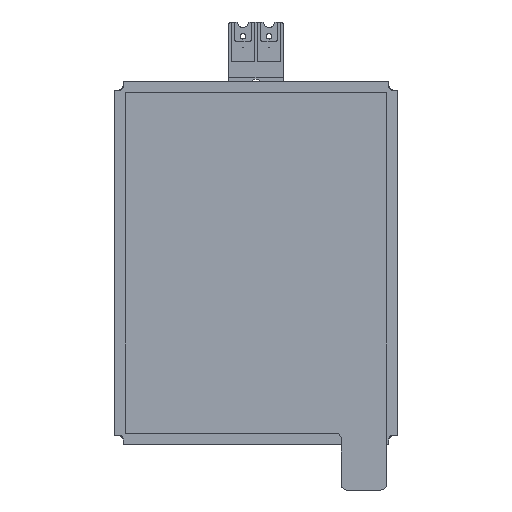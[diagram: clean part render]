
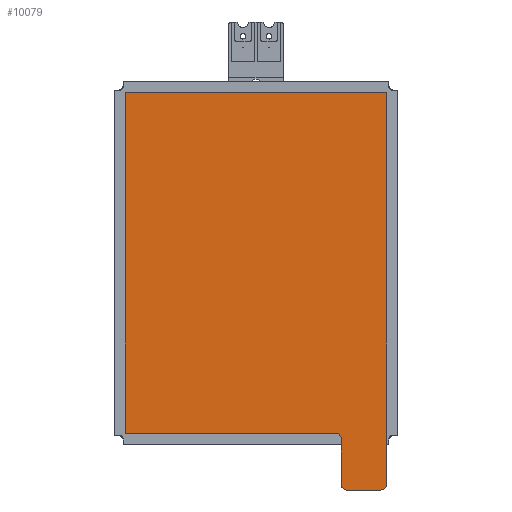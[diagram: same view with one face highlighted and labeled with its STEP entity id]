
A CAD part, front view. The second image highlights one B-rep face of the part: STEP entity #10079.
In plain terms, the highlighted planar face has unit normal (0, -1, 0).
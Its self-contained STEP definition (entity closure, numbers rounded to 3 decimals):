
#292 = DIRECTION ( 'NONE',  ( 0., -1., 0. ) ) ;
#488 = ORIENTED_EDGE ( 'NONE', *, *, #4452, .T. ) ;
#607 = ORIENTED_EDGE ( 'NONE', *, *, #8883, .T. ) ;
#631 = ORIENTED_EDGE ( 'NONE', *, *, #12655, .T. ) ;
#1194 = PLANE ( 'NONE',  #10865 ) ;
#1260 = DIRECTION ( 'NONE',  ( -1., 0., 0. ) ) ;
#1407 = DIRECTION ( 'NONE',  ( 0., -1., 0. ) ) ;
#1474 = VERTEX_POINT ( 'NONE', #2927 ) ;
#1532 = DIRECTION ( 'NONE',  ( 0., 0., -1. ) ) ;
#1612 = AXIS2_PLACEMENT_3D ( 'NONE', #5833, #1407, #5622 ) ;
#1645 = AXIS2_PLACEMENT_3D ( 'NONE', #5647, #5787, #10969 ) ;
#1732 = EDGE_CURVE ( 'NONE', #6357, #9972, #11535, .T. ) ;
#2032 = EDGE_LOOP ( 'NONE', ( #9810, #7199, #9848, #13360, #631, #9418, #4850, #607, #488 ) ) ;
#2034 = EDGE_CURVE ( 'NONE', #1474, #6465, #11619, .T. ) ;
#2406 = CARTESIAN_POINT ( 'NONE',  ( 11.5, -0.075, -20. ) ) ;
#2495 = CARTESIAN_POINT ( 'NONE',  ( -11.5, -0.075, -15. ) ) ;
#2912 = CARTESIAN_POINT ( 'NONE',  ( 11.5, -0.075, -15. ) ) ;
#2927 = CARTESIAN_POINT ( 'NONE',  ( 11.5, -0.075, 15. ) ) ;
#3017 = CIRCLE ( 'NONE', #1645, 0.5 ) ;
#3397 = CARTESIAN_POINT ( 'NONE',  ( 11.5, -0.075, 15. ) ) ;
#3431 = VERTEX_POINT ( 'NONE', #2495 ) ;
#3775 = EDGE_CURVE ( 'NONE', #6465, #3431, #9669, .T. ) ;
#4188 = VECTOR ( 'NONE', #12576, 1000. ) ;
#4452 = EDGE_CURVE ( 'NONE', #9216, #7453, #6196, .T. ) ;
#4618 = LINE ( 'NONE', #2406, #4699 ) ;
#4699 = VECTOR ( 'NONE', #6619, 1000. ) ;
#4850 = ORIENTED_EDGE ( 'NONE', *, *, #3775, .T. ) ;
#5255 = CARTESIAN_POINT ( 'NONE',  ( -11.5, -0.075, -15. ) ) ;
#5622 = DIRECTION ( 'NONE',  ( 0., 0., -1. ) ) ;
#5647 = CARTESIAN_POINT ( 'NONE',  ( 11., -0.075, -19.5 ) ) ;
#5658 = CARTESIAN_POINT ( 'NONE',  ( 7., -0.075, -15.5 ) ) ;
#5698 = CARTESIAN_POINT ( 'NONE',  ( 7.5, -0.075, -19.5 ) ) ;
#5787 = DIRECTION ( 'NONE',  ( 0., -1., 0. ) ) ;
#5833 = CARTESIAN_POINT ( 'NONE',  ( 8., -0.075, -19.5 ) ) ;
#6081 = VECTOR ( 'NONE', #1260, 1000. ) ;
#6196 = CIRCLE ( 'NONE', #9727, 0.5 ) ;
#6357 = VERTEX_POINT ( 'NONE', #5698 ) ;
#6465 = VERTEX_POINT ( 'NONE', #9841 ) ;
#6619 = DIRECTION ( 'NONE',  ( 1., 0., 0. ) ) ;
#6683 = DIRECTION ( 'NONE',  ( 0., 1., 0. ) ) ;
#7199 = ORIENTED_EDGE ( 'NONE', *, *, #1732, .T. ) ;
#7201 = EDGE_CURVE ( 'NONE', #10809, #11194, #3017, .T. ) ;
#7378 = CARTESIAN_POINT ( 'NONE',  ( -11.5, -0.075, 15. ) ) ;
#7453 = VERTEX_POINT ( 'NONE', #9363 ) ;
#7595 = DIRECTION ( 'NONE',  ( 0., 0., -1. ) ) ;
#8491 = CARTESIAN_POINT ( 'NONE',  ( 7., -0.075, -15. ) ) ;
#8512 = DIRECTION ( 'NONE',  ( 0., 0., -1. ) ) ;
#8724 = LINE ( 'NONE', #9825, #12207 ) ;
#8883 = EDGE_CURVE ( 'NONE', #3431, #9216, #10725, .T. ) ;
#9216 = VERTEX_POINT ( 'NONE', #8491 ) ;
#9363 = CARTESIAN_POINT ( 'NONE',  ( 7.5, -0.075, -15.5 ) ) ;
#9418 = ORIENTED_EDGE ( 'NONE', *, *, #2034, .T. ) ;
#9669 = LINE ( 'NONE', #7378, #4188 ) ;
#9727 = AXIS2_PLACEMENT_3D ( 'NONE', #5658, #6683, #7595 ) ;
#9810 = ORIENTED_EDGE ( 'NONE', *, *, #10288, .T. ) ;
#9825 = CARTESIAN_POINT ( 'NONE',  ( 7.5, -0.075, -15. ) ) ;
#9841 = CARTESIAN_POINT ( 'NONE',  ( -11.5, -0.075, 15. ) ) ;
#9848 = ORIENTED_EDGE ( 'NONE', *, *, #10712, .T. ) ;
#9972 = VERTEX_POINT ( 'NONE', #10451 ) ;
#10079 = ADVANCED_FACE ( 'NONE', ( #12860 ), #1194, .T. ) ;
#10157 = CARTESIAN_POINT ( 'NONE',  ( 11., -0.075, -20. ) ) ;
#10277 = CARTESIAN_POINT ( 'NONE',  ( 11.5, -0.075, -19.5 ) ) ;
#10288 = EDGE_CURVE ( 'NONE', #7453, #6357, #8724, .T. ) ;
#10448 = DIRECTION ( 'NONE',  ( 1., 0., 0. ) ) ;
#10451 = CARTESIAN_POINT ( 'NONE',  ( 8., -0.075, -20. ) ) ;
#10712 = EDGE_CURVE ( 'NONE', #9972, #10809, #4618, .T. ) ;
#10725 = LINE ( 'NONE', #5255, #11314 ) ;
#10809 = VERTEX_POINT ( 'NONE', #10157 ) ;
#10865 = AXIS2_PLACEMENT_3D ( 'NONE', #11691, #292, #8512 ) ;
#10969 = DIRECTION ( 'NONE',  ( 0., 0., -1. ) ) ;
#11194 = VERTEX_POINT ( 'NONE', #10277 ) ;
#11314 = VECTOR ( 'NONE', #10448, 1000. ) ;
#11352 = DIRECTION ( 'NONE',  ( 0., 0., 1. ) ) ;
#11535 = CIRCLE ( 'NONE', #1612, 0.5 ) ;
#11619 = LINE ( 'NONE', #3397, #6081 ) ;
#11691 = CARTESIAN_POINT ( 'NONE',  ( 0., -0.075, 0. ) ) ;
#12207 = VECTOR ( 'NONE', #1532, 1000. ) ;
#12389 = LINE ( 'NONE', #2912, #12916 ) ;
#12576 = DIRECTION ( 'NONE',  ( 0., 0., -1. ) ) ;
#12655 = EDGE_CURVE ( 'NONE', #11194, #1474, #12389, .T. ) ;
#12860 = FACE_OUTER_BOUND ( 'NONE', #2032, .T. ) ;
#12916 = VECTOR ( 'NONE', #11352, 1000. ) ;
#13360 = ORIENTED_EDGE ( 'NONE', *, *, #7201, .T. ) ;
